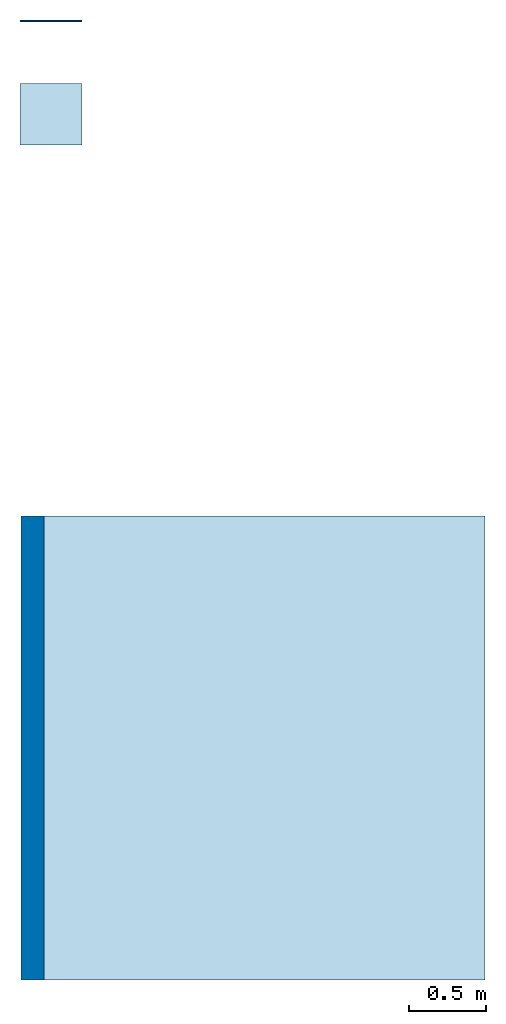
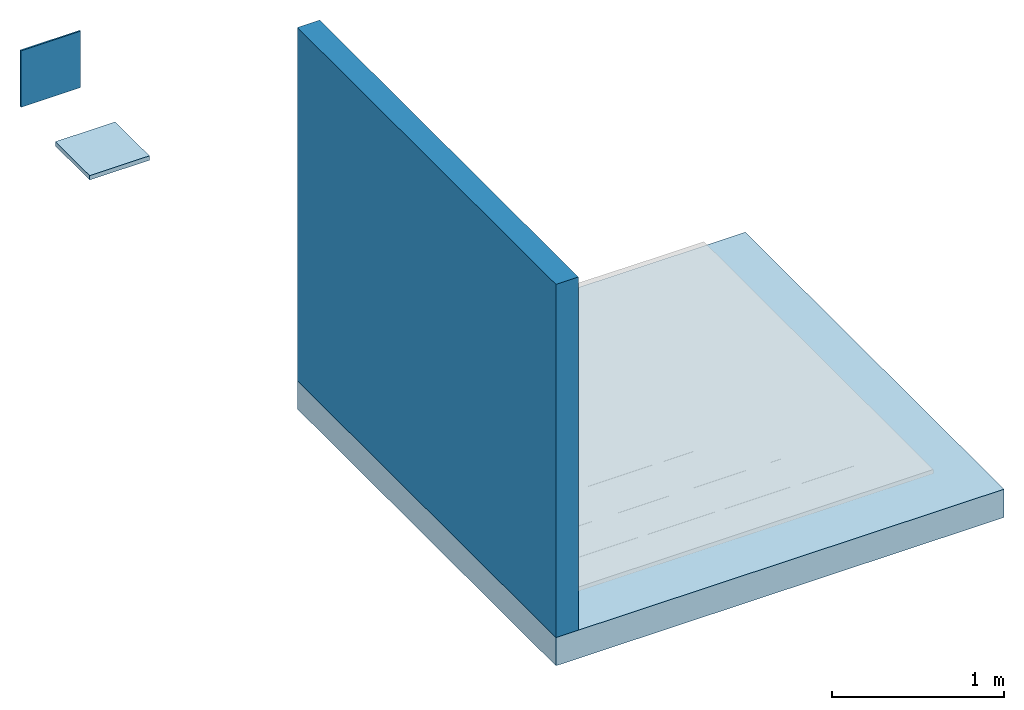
# One storey, part 1 of 2: 2 slabs, 2 walls.
"""IFC2X3 building model written with IfcOpenShell, lengths in metres."""

from ifc_helpers import new_model, entity, si_unit, converted_unit, derived_unit, direction, frame, frame_2d, origin, origin_2d_with_axis, place, context, subcontext, project, spatial, rectangle, extrude, material, layer, layer_set, layer_usage, type_object, element, save


model = new_model("IFC2X3")

# Units and contexts
model_context = context("Model", 3, precision=1e-05, world=origin(), true_north=direction((6.123031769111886e-17, 1.0)))
body_context = subcontext(model_context, "Body", "Model", "MODEL_VIEW")
ifc_project = project(units=[si_unit("LENGTHUNIT", "METRE"), si_unit("AREAUNIT", "SQUARE_METRE"), si_unit("VOLUMEUNIT", "CUBIC_METRE"), converted_unit("PLANEANGLEUNIT", "DEGREE", entity("IfcRatioMeasure", 0.017453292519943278), si_unit("PLANEANGLEUNIT", "RADIAN"), dimensions=[0, 0, 0, 0, 0, 0, 0]), si_unit("MASSUNIT", "GRAM", prefix="KILO"), derived_unit("MASSDENSITYUNIT", [(si_unit("MASSUNIT", "GRAM", prefix="KILO"), 1), (si_unit("LENGTHUNIT", "METRE"), -3)]), derived_unit("IONCONCENTRATIONUNIT", [(si_unit("MASSUNIT", "GRAM", prefix="KILO"), 1), (si_unit("LENGTHUNIT", "METRE"), -3)]), derived_unit("MOMENTOFINERTIAUNIT", [(si_unit("LENGTHUNIT", "METRE"), 4)]), si_unit("TIMEUNIT", "SECOND"), si_unit("FREQUENCYUNIT", "HERTZ"), si_unit("THERMODYNAMICTEMPERATUREUNIT", "DEGREE_CELSIUS"), derived_unit("THERMALTRANSMITTANCEUNIT", [(si_unit("MASSUNIT", "GRAM", prefix="KILO"), 1), (si_unit("THERMODYNAMICTEMPERATUREUNIT", "KELVIN"), -1), (si_unit("TIMEUNIT", "SECOND"), -3)]), derived_unit("THERMALCONDUCTANCEUNIT", [(si_unit("MASSUNIT", "GRAM", prefix="KILO"), 1), (si_unit("THERMODYNAMICTEMPERATUREUNIT", "KELVIN"), -1), (si_unit("TIMEUNIT", "SECOND"), -3), (si_unit("LENGTHUNIT", "METRE"), 1)]), derived_unit("VOLUMETRICFLOWRATEUNIT", [(si_unit("LENGTHUNIT", "METRE"), 3), (si_unit("TIMEUNIT", "SECOND"), -1)]), derived_unit("MASSFLOWRATEUNIT", [(si_unit("MASSUNIT", "GRAM", prefix="KILO"), 1), (si_unit("TIMEUNIT", "SECOND"), -1)]), derived_unit("ROTATIONALFREQUENCYUNIT", [(si_unit("TIMEUNIT", "SECOND"), -1)]), si_unit("ELECTRICCURRENTUNIT", "AMPERE"), si_unit("ELECTRICVOLTAGEUNIT", "VOLT"), si_unit("POWERUNIT", "WATT"), si_unit("FORCEUNIT", "NEWTON", prefix="KILO"), si_unit("ILLUMINANCEUNIT", "LUX"), si_unit("LUMINOUSFLUXUNIT", "LUMEN"), si_unit("LUMINOUSINTENSITYUNIT", "CANDELA"), derived_unit("USERDEFINED", [(si_unit("MASSUNIT", "GRAM", prefix="KILO"), -1), (si_unit("LENGTHUNIT", "METRE"), -2), (si_unit("TIMEUNIT", "SECOND"), 3), (si_unit("LUMINOUSFLUXUNIT", "LUMEN"), 1)]), derived_unit("USERDEFINED", [(si_unit("MASSUNIT", "GRAM", prefix="KILO"), 1), (si_unit("TIMEUNIT", "SECOND"), -3), (si_unit("LENGTHUNIT", "METRE"), 3), (si_unit("ELECTRICCURRENTUNIT", "AMPERE"), -2)]), derived_unit("SOUNDPOWERUNIT", [(si_unit("MASSUNIT", "GRAM", prefix="KILO"), 1), (si_unit("TIMEUNIT", "SECOND"), -3), (si_unit("LENGTHUNIT", "METRE"), 2)]), derived_unit("SOUNDPRESSUREUNIT", [(si_unit("MASSUNIT", "GRAM", prefix="KILO"), 1), (si_unit("LENGTHUNIT", "METRE"), -1), (si_unit("TIMEUNIT", "SECOND"), -2)]), derived_unit("LINEARVELOCITYUNIT", [(si_unit("LENGTHUNIT", "METRE"), 1), (si_unit("TIMEUNIT", "SECOND"), -1)]), si_unit("PRESSUREUNIT", "PASCAL"), derived_unit("USERDEFINED", [(si_unit("MASSUNIT", "GRAM", prefix="KILO"), 1), (si_unit("LENGTHUNIT", "METRE"), -2), (si_unit("TIMEUNIT", "SECOND"), -2)]), derived_unit("LINEARFORCEUNIT", [(si_unit("MASSUNIT", "GRAM", prefix="KILO"), 1), (si_unit("TIMEUNIT", "SECOND"), -2)]), derived_unit("PLANARFORCEUNIT", [(si_unit("MASSUNIT", "GRAM", prefix="KILO"), 1), (si_unit("LENGTHUNIT", "METRE"), -1), (si_unit("TIMEUNIT", "SECOND"), -2)]), derived_unit("SPECIFICHEATCAPACITYUNIT", [(si_unit("THERMODYNAMICTEMPERATUREUNIT", "KELVIN"), -1), (si_unit("LENGTHUNIT", "METRE"), 2), (si_unit("TIMEUNIT", "SECOND"), -2)]), derived_unit("HEATINGVALUEUNIT", [(si_unit("LENGTHUNIT", "METRE"), 2), (si_unit("TIMEUNIT", "SECOND"), -2)]), derived_unit("VAPORPERMEABILITYUNIT", [(si_unit("LENGTHUNIT", "METRE"), -1), (si_unit("TIMEUNIT", "SECOND"), 1)]), derived_unit("DYNAMICVISCOSITYUNIT", [(si_unit("MASSUNIT", "GRAM", prefix="KILO"), 1), (si_unit("TIMEUNIT", "SECOND"), -1), (si_unit("LENGTHUNIT", "METRE"), -1)]), derived_unit("THERMALEXPANSIONCOEFFICIENTUNIT", [(si_unit("THERMODYNAMICTEMPERATUREUNIT", "KELVIN"), -1)]), derived_unit("MODULUSOFELASTICITYUNIT", [(si_unit("MASSUNIT", "GRAM", prefix="KILO"), 1), (si_unit("LENGTHUNIT", "METRE"), -1), (si_unit("TIMEUNIT", "SECOND"), -2)]), derived_unit("ISOTHERMALMOISTURECAPACITYUNIT", [(si_unit("LENGTHUNIT", "METRE"), 3), (si_unit("MASSUNIT", "GRAM", prefix="KILO"), -1)]), derived_unit("MOISTUREDIFFUSIVITYUNIT", [(si_unit("TIMEUNIT", "SECOND"), -1), (si_unit("LENGTHUNIT", "METRE"), 2)])], contexts=[model_context])

# Site, building, storey
site_placement = place(None, origin())
site = spatial("IfcSite", under=ifc_project, at=site_placement, Name="Default", CompositionType="ELEMENT")
building_placement = place(site_placement, origin())
building = spatial("IfcBuilding", under=site, at=building_placement, CompositionType="ELEMENT")
storey_placement = place(building_placement, frame((0.0, 0.0, -0.0025237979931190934)))
storey = spatial("IfcBuildingStorey", under=building, at=storey_placement, Name="ARQ Térreo", CompositionType="ELEMENT", Elevation=-0.0025237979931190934)

# Slabs
ifc_material_1 = material(Name="#concreto")
ifc_layer_1 = layer(ifc_material_1, 0.2)
ifc_layer_set_1 = layer_set([ifc_layer_1], Name="Piso:Piso:LAJE CONCRETO")
ifc_layer_usage_1 = layer_usage(ifc_layer_set_1, "AXIS3", "POSITIVE", 0.0)
slab_type_1 = type_object("IfcSlabType", Name="Piso:Piso:LAJE CONCRETO", PredefinedType="FLOOR", material=ifc_layer_set_1)
slab_1_placement = place(storey_placement, origin())
element("IfcSlab", 1, at=slab_1_placement, inside=storey, type_object=slab_type_1, material=ifc_layer_usage_1, Name="Piso:Piso:LAJE CONCRETO", ObjectType="Piso:Piso:LAJE CONCRETO", PredefinedType="FLOOR", context=body_context, shape_type="SweptSolid", body=[
    extrude(rectangle(XDim=3.0000000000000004, YDim=3.0000000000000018, at=origin_2d_with_axis()), frame((0.9980295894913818, -1.354129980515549, 0.0), z_axis=(0.0, 0.0, -1.0), x_axis=(0.0, 1.0, 0.0)), (0.0, 0.0, 1.0), 0.2),
])
ifc_material_2 = material(Name="#Vedalage Plus")
ifc_layer_2 = layer(ifc_material_2, 0.0009999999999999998)
ifc_material_3 = material(Name="#argamassa")
ifc_layer_3 = layer(ifc_material_3, 0.03)
ifc_layer_set_2 = layer_set([ifc_layer_2, ifc_layer_3], Name="Piso:IMPH_VEDALAGEPLUS")
ifc_layer_usage_2 = layer_usage(ifc_layer_set_2, "AXIS3", "POSITIVE", 0.0)
slab_type_2 = type_object("IfcSlabType", Name="Piso:IMPH_VEDALAGEPLUS", PredefinedType="FLOOR", material=ifc_layer_set_2)
slab_2_placement = place(storey_placement, origin())
element("IfcSlab", 2, at=slab_2_placement, inside=storey, type_object=slab_type_2, material=ifc_layer_usage_2, Name="Piso:IMPH_VEDALAGEPLUS", ObjectType="Piso:IMPH_VEDALAGEPLUS", PredefinedType="FLOOR", context=body_context, shape_type="SweptSolid", body=[
    extrude(rectangle(XDim=0.396999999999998, YDim=0.4, at=frame_2d((-2.636779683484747e-16, 0.0), x_axis=(1.0, 0.0))), frame((-0.3084496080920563, 2.740434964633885, 0.0), z_axis=(0.0, 0.0, -1.0), x_axis=(0.0, 1.0, 0.0)), (0.0, 0.0, 1.0), 0.031),
])

# Walls
ifc_layer_4 = layer(ifc_material_1, 0.14999999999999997)
ifc_layer_set_3 = layer_set([ifc_layer_4], Name="Parede básica:Parede básica:Parede Concreto")
ifc_layer_usage_3 = layer_usage(ifc_layer_set_3, "AXIS2", "NEGATIVE", 0.07499999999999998)
wall_type_1 = type_object("IfcWallType", Name="Parede básica:Parede básica:Parede Concreto", PredefinedType="STANDARD", material=ifc_layer_set_3)
wall_1_placement = place(storey_placement, frame((-0.4269704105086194, 0.14587001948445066, 0.0), z_axis=(0.0, 0.0, 1.0), x_axis=(0.0, -1.0, 0.0)))
element("IfcWallStandardCase", 3, at=wall_1_placement, inside=storey, type_object=wall_type_1, material=ifc_layer_usage_3, Name="Parede básica:Parede Concreto", ObjectType="Parede básica:Parede Concreto", context=body_context, shape_type="SweptSolid", body=[
    extrude(rectangle(XDim=2.9999999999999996, YDim=0.15000000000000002, at=frame_2d((1.4999999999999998, 0.0), x_axis=(-1.0, 0.0))), origin(), (0.0, 0.0, 1.0), 2.4999999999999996),
])
ifc_layer_5 = layer(ifc_material_2, 0.0009999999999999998)
ifc_layer_6 = layer(ifc_material_3, 0.01)
ifc_layer_set_4 = layer_set([ifc_layer_5, ifc_layer_6], Name="Parede básica:IMPV_VEDALAGEPLUS")
ifc_layer_usage_4 = layer_usage(ifc_layer_set_4, "AXIS2", "NEGATIVE", 0.0055000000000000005)
wall_type_2 = type_object("IfcWallType", Name="Parede básica:IMPV_VEDALAGEPLUS", PredefinedType="STANDARD", material=ifc_layer_set_4)
wall_2_placement = place(storey_placement, frame((-0.10844960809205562, 3.3444349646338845, 0.0), z_axis=(0.0, 0.0, 1.0), x_axis=(-1.0, 0.0, 0.0)))
element("IfcWallStandardCase", 4, at=wall_2_placement, inside=storey, type_object=wall_type_2, material=ifc_layer_usage_4, Name="Parede básica:IMPV_T4PP", ObjectType="Parede básica:IMPV_T4PP", context=body_context, shape_type="SweptSolid", body=[
    extrude(rectangle(XDim=0.4, YDim=0.010999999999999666, at=frame_2d((0.2, 6.201636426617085e-17), x_axis=(-1.0, 0.0))), origin(), (0.0, 0.0, 1.0), 0.4),
])

save(model, "model.ifc")
